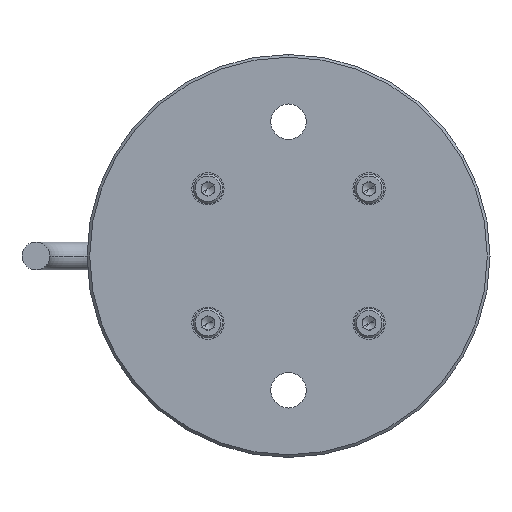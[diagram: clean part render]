
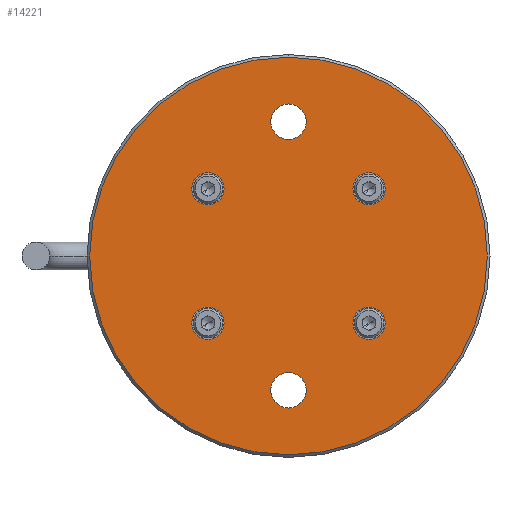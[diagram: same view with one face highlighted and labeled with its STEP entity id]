
A CAD part, front view. The second image highlights one B-rep face of the part: STEP entity #14221.
In plain terms, the highlighted planar face has unit normal (0, -1, 0).
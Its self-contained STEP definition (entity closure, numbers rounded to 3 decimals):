
#142 = VERTEX_POINT ( 'NONE', #31256 ) ;
#269 = DIRECTION ( 'NONE',  ( 0., 0., -1. ) ) ;
#405 = DIRECTION ( 'NONE',  ( 0., -1., 0. ) ) ;
#477 = VERTEX_POINT ( 'NONE', #28675 ) ;
#1082 = DIRECTION ( 'NONE',  ( 0., 0., -1. ) ) ;
#1268 = ORIENTED_EDGE ( 'NONE', *, *, #32460, .F. ) ;
#1684 = PLANE ( 'NONE',  #18399 ) ;
#1713 = EDGE_LOOP ( 'NONE', ( #18728, #11843 ) ) ;
#1752 = ORIENTED_EDGE ( 'NONE', *, *, #15413, .F. ) ;
#1799 = CARTESIAN_POINT ( 'NONE',  ( 15., 0., 9.5 ) ) ;
#1974 = EDGE_LOOP ( 'NONE', ( #15823, #32804 ) ) ;
#2170 = AXIS2_PLACEMENT_3D ( 'NONE', #6106, #23866, #11294 ) ;
#2296 = CIRCLE ( 'NONE', #27325, 3. ) ;
#2329 = AXIS2_PLACEMENT_3D ( 'NONE', #30275, #32853, #15239 ) ;
#3258 = VERTEX_POINT ( 'NONE', #25229 ) ;
#3492 = CARTESIAN_POINT ( 'NONE',  ( -15., 0., -9.5 ) ) ;
#3733 = VERTEX_POINT ( 'NONE', #5279 ) ;
#4442 = VERTEX_POINT ( 'NONE', #21256 ) ;
#4456 = DIRECTION ( 'NONE',  ( 0., 0., 1. ) ) ;
#4574 = AXIS2_PLACEMENT_3D ( 'NONE', #12697, #30518, #25171 ) ;
#4998 = VERTEX_POINT ( 'NONE', #10838 ) ;
#5233 = EDGE_CURVE ( 'NONE', #14247, #25550, #20174, .T. ) ;
#5279 = CARTESIAN_POINT ( 'NONE',  ( 0., 0., -21.7 ) ) ;
#6106 = CARTESIAN_POINT ( 'NONE',  ( 0., 0., 25. ) ) ;
#6226 = CIRCLE ( 'NONE', #13478, 3. ) ;
#6579 = FACE_BOUND ( 'NONE', #8972, .T. ) ;
#6737 = CARTESIAN_POINT ( 'NONE',  ( 0., 0., -37. ) ) ;
#7283 = VERTEX_POINT ( 'NONE', #24544 ) ;
#7307 = EDGE_CURVE ( 'NONE', #3258, #3733, #9707, .T. ) ;
#7391 = CIRCLE ( 'NONE', #31395, 3. ) ;
#7524 = CIRCLE ( 'NONE', #11737, 37. ) ;
#7565 = EDGE_LOOP ( 'NONE', ( #1268, #13267 ) ) ;
#7642 = CARTESIAN_POINT ( 'NONE',  ( -15., 0., -12.5 ) ) ;
#7793 = DIRECTION ( 'NONE',  ( 0., 0., -1. ) ) ;
#7877 = VERTEX_POINT ( 'NONE', #6737 ) ;
#8001 = DIRECTION ( 'NONE',  ( 0., 0., -1. ) ) ;
#8063 = CIRCLE ( 'NONE', #2329, 37. ) ;
#8356 = ORIENTED_EDGE ( 'NONE', *, *, #11213, .F. ) ;
#8435 = AXIS2_PLACEMENT_3D ( 'NONE', #29939, #27839, #27497 ) ;
#8972 = EDGE_LOOP ( 'NONE', ( #9832, #8356 ) ) ;
#9298 = CIRCLE ( 'NONE', #4574, 3. ) ;
#9389 = AXIS2_PLACEMENT_3D ( 'NONE', #22652, #17606, #30654 ) ;
#9459 = EDGE_CURVE ( 'NONE', #7877, #4998, #8063, .T. ) ;
#9567 = EDGE_LOOP ( 'NONE', ( #24289, #19447 ) ) ;
#9707 = CIRCLE ( 'NONE', #29151, 3.3 ) ;
#9832 = ORIENTED_EDGE ( 'NONE', *, *, #11458, .F. ) ;
#9849 = DIRECTION ( 'NONE',  ( 0., 0., -1. ) ) ;
#10509 = ORIENTED_EDGE ( 'NONE', *, *, #13209, .F. ) ;
#10542 = FACE_BOUND ( 'NONE', #9567, .T. ) ;
#10829 = ORIENTED_EDGE ( 'NONE', *, *, #5233, .F. ) ;
#10838 = CARTESIAN_POINT ( 'NONE',  ( 0., 0., 37. ) ) ;
#11213 = EDGE_CURVE ( 'NONE', #25768, #4442, #13473, .T. ) ;
#11294 = DIRECTION ( 'NONE',  ( 0., 0., 1. ) ) ;
#11458 = EDGE_CURVE ( 'NONE', #4442, #25768, #29391, .T. ) ;
#11737 = AXIS2_PLACEMENT_3D ( 'NONE', #13814, #31640, #31523 ) ;
#11745 = EDGE_CURVE ( 'NONE', #4998, #7877, #7524, .T. ) ;
#11843 = ORIENTED_EDGE ( 'NONE', *, *, #9459, .F. ) ;
#11894 = DIRECTION ( 'NONE',  ( 0., 1., 0. ) ) ;
#12588 = DIRECTION ( 'NONE',  ( 0., -1., 0. ) ) ;
#12697 = CARTESIAN_POINT ( 'NONE',  ( 15., 0., -12.5 ) ) ;
#13069 = DIRECTION ( 'NONE',  ( 0., -1., 0. ) ) ;
#13209 = EDGE_CURVE ( 'NONE', #25550, #14247, #6226, .T. ) ;
#13267 = ORIENTED_EDGE ( 'NONE', *, *, #7307, .F. ) ;
#13473 = CIRCLE ( 'NONE', #16206, 3. ) ;
#13478 = AXIS2_PLACEMENT_3D ( 'NONE', #15479, #22430, #7793 ) ;
#13814 = CARTESIAN_POINT ( 'NONE',  ( 0., 0., 0. ) ) ;
#14098 = CIRCLE ( 'NONE', #30230, 3. ) ;
#14221 = ADVANCED_FACE ( 'NONE', ( #27663, #6579, #22063, #30828, #32822, #10542, #19262 ), #1684, .F. ) ;
#14247 = VERTEX_POINT ( 'NONE', #1799 ) ;
#15239 = DIRECTION ( 'NONE',  ( 0., 0., 1. ) ) ;
#15413 = EDGE_CURVE ( 'NONE', #17585, #7283, #9298, .T. ) ;
#15479 = CARTESIAN_POINT ( 'NONE',  ( 15., 0., 12.5 ) ) ;
#15823 = ORIENTED_EDGE ( 'NONE', *, *, #24574, .F. ) ;
#16206 = AXIS2_PLACEMENT_3D ( 'NONE', #29005, #31566, #1082 ) ;
#16427 = EDGE_LOOP ( 'NONE', ( #24171, #1752 ) ) ;
#16717 = CIRCLE ( 'NONE', #2170, 3.3 ) ;
#17253 = CARTESIAN_POINT ( 'NONE',  ( 0., 0., -25. ) ) ;
#17585 = VERTEX_POINT ( 'NONE', #17783 ) ;
#17606 = DIRECTION ( 'NONE',  ( 0., -1., 0. ) ) ;
#17732 = CARTESIAN_POINT ( 'NONE',  ( -15., 0., 15.5 ) ) ;
#17783 = CARTESIAN_POINT ( 'NONE',  ( 15., 0., -9.5 ) ) ;
#18291 = CARTESIAN_POINT ( 'NONE',  ( -15., 0., -12.5 ) ) ;
#18399 = AXIS2_PLACEMENT_3D ( 'NONE', #19676, #11894, #4456 ) ;
#18728 = ORIENTED_EDGE ( 'NONE', *, *, #11745, .F. ) ;
#19262 = FACE_OUTER_BOUND ( 'NONE', #1713, .T. ) ;
#19447 = ORIENTED_EDGE ( 'NONE', *, *, #32767, .F. ) ;
#19676 = CARTESIAN_POINT ( 'NONE',  ( 0., 0., 0. ) ) ;
#19786 = DIRECTION ( 'NONE',  ( 0., -1., 0. ) ) ;
#19897 = DIRECTION ( 'NONE',  ( 0., 0., -1. ) ) ;
#19936 = DIRECTION ( 'NONE',  ( 0., -1., 0. ) ) ;
#20174 = CIRCLE ( 'NONE', #20998, 3. ) ;
#20747 = DIRECTION ( 'NONE',  ( 0., 0., -1. ) ) ;
#20998 = AXIS2_PLACEMENT_3D ( 'NONE', #22603, #19786, #19897 ) ;
#21256 = CARTESIAN_POINT ( 'NONE',  ( -15., 0., 9.5 ) ) ;
#22063 = FACE_BOUND ( 'NONE', #24851, .T. ) ;
#22430 = DIRECTION ( 'NONE',  ( 0., -1., 0. ) ) ;
#22603 = CARTESIAN_POINT ( 'NONE',  ( 15., 0., 12.5 ) ) ;
#22652 = CARTESIAN_POINT ( 'NONE',  ( 0., 0., -25. ) ) ;
#22668 = EDGE_CURVE ( 'NONE', #7283, #17585, #2296, .T. ) ;
#23050 = AXIS2_PLACEMENT_3D ( 'NONE', #27889, #32649, #9849 ) ;
#23293 = CIRCLE ( 'NONE', #8435, 3.3 ) ;
#23866 = DIRECTION ( 'NONE',  ( 0., -1., 0. ) ) ;
#24062 = CARTESIAN_POINT ( 'NONE',  ( -15., 0., -15.5 ) ) ;
#24171 = ORIENTED_EDGE ( 'NONE', *, *, #22668, .F. ) ;
#24289 = ORIENTED_EDGE ( 'NONE', *, *, #24703, .F. ) ;
#24544 = CARTESIAN_POINT ( 'NONE',  ( 15., 0., -15.5 ) ) ;
#24574 = EDGE_CURVE ( 'NONE', #31682, #30589, #7391, .T. ) ;
#24703 = EDGE_CURVE ( 'NONE', #142, #477, #23293, .T. ) ;
#24851 = EDGE_LOOP ( 'NONE', ( #10829, #10509 ) ) ;
#24969 = DIRECTION ( 'NONE',  ( 0., 0., 1. ) ) ;
#25171 = DIRECTION ( 'NONE',  ( 0., 0., -1. ) ) ;
#25229 = CARTESIAN_POINT ( 'NONE',  ( 0., 0., -28.3 ) ) ;
#25550 = VERTEX_POINT ( 'NONE', #31662 ) ;
#25768 = VERTEX_POINT ( 'NONE', #17732 ) ;
#27325 = AXIS2_PLACEMENT_3D ( 'NONE', #30983, #405, #20747 ) ;
#27497 = DIRECTION ( 'NONE',  ( 0., 0., 1. ) ) ;
#27663 = FACE_BOUND ( 'NONE', #1974, .T. ) ;
#27839 = DIRECTION ( 'NONE',  ( 0., -1., 0. ) ) ;
#27889 = CARTESIAN_POINT ( 'NONE',  ( -15., 0., 12.5 ) ) ;
#28675 = CARTESIAN_POINT ( 'NONE',  ( 0., 0., 21.7 ) ) ;
#29005 = CARTESIAN_POINT ( 'NONE',  ( -15., 0., 12.5 ) ) ;
#29151 = AXIS2_PLACEMENT_3D ( 'NONE', #17253, #19936, #24969 ) ;
#29391 = CIRCLE ( 'NONE', #23050, 3. ) ;
#29822 = EDGE_CURVE ( 'NONE', #30589, #31682, #14098, .T. ) ;
#29939 = CARTESIAN_POINT ( 'NONE',  ( 0., 0., 25. ) ) ;
#30230 = AXIS2_PLACEMENT_3D ( 'NONE', #18291, #13069, #8001 ) ;
#30275 = CARTESIAN_POINT ( 'NONE',  ( 0., 0., 0. ) ) ;
#30518 = DIRECTION ( 'NONE',  ( 0., -1., 0. ) ) ;
#30589 = VERTEX_POINT ( 'NONE', #3492 ) ;
#30654 = DIRECTION ( 'NONE',  ( 0., 0., 1. ) ) ;
#30828 = FACE_BOUND ( 'NONE', #16427, .T. ) ;
#30983 = CARTESIAN_POINT ( 'NONE',  ( 15., 0., -12.5 ) ) ;
#31256 = CARTESIAN_POINT ( 'NONE',  ( 0., 0., 28.3 ) ) ;
#31395 = AXIS2_PLACEMENT_3D ( 'NONE', #7642, #12588, #269 ) ;
#31523 = DIRECTION ( 'NONE',  ( 0., 0., 1. ) ) ;
#31566 = DIRECTION ( 'NONE',  ( 0., -1., 0. ) ) ;
#31640 = DIRECTION ( 'NONE',  ( 0., 1., 0. ) ) ;
#31662 = CARTESIAN_POINT ( 'NONE',  ( 15., 0., 15.5 ) ) ;
#31682 = VERTEX_POINT ( 'NONE', #24062 ) ;
#31905 = CIRCLE ( 'NONE', #9389, 3.3 ) ;
#32460 = EDGE_CURVE ( 'NONE', #3733, #3258, #31905, .T. ) ;
#32649 = DIRECTION ( 'NONE',  ( 0., -1., 0. ) ) ;
#32767 = EDGE_CURVE ( 'NONE', #477, #142, #16717, .T. ) ;
#32804 = ORIENTED_EDGE ( 'NONE', *, *, #29822, .F. ) ;
#32822 = FACE_BOUND ( 'NONE', #7565, .T. ) ;
#32853 = DIRECTION ( 'NONE',  ( 0., 1., 0. ) ) ;
